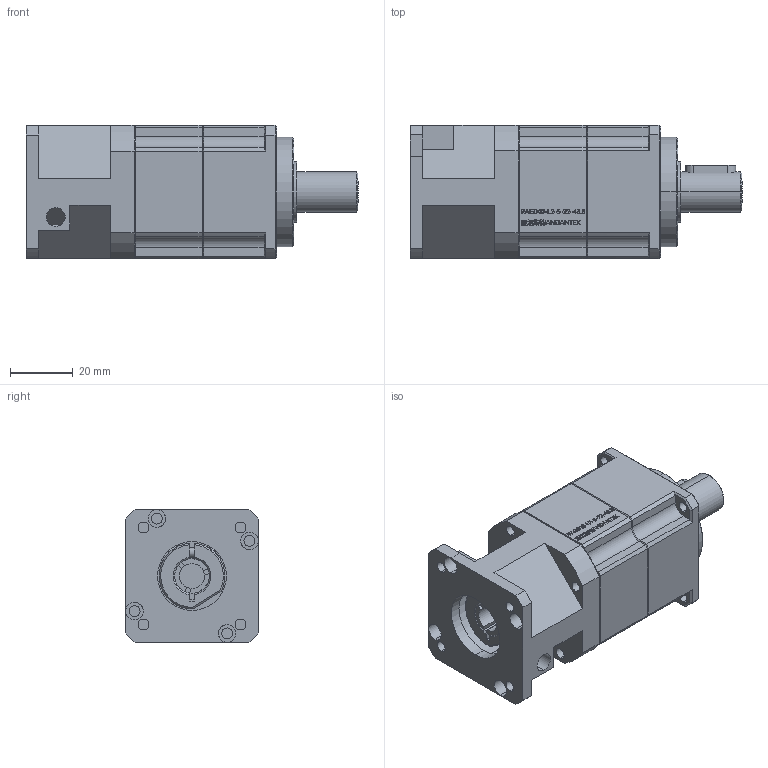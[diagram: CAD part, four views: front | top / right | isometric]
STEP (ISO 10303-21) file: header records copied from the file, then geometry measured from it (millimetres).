
FILE_DESCRIPTION (( 'STEP AP203' ), '1' );
FILE_NAME ('PAG040-L2-5-22-43.8.STEP', '2023-07-10T08:55:14', ( 'Windows User' ), ( 'P R C' ), 'SwSTEP 2.0', 'SolidWorks 2016', '' );
FILE_SCHEMA (( 'CONFIG_CONTROL_DESIGN' ));
Length unit declared in the file: millimetre
Products named in the file (6): GB／T70．1-2000内六角圆柱头螺钉M3×12; 5X5X16; PAG040-L2-5-22-43.8; PAG040-CQ01_PD42-CQ01+CQ02; PAG040-WZZ-8-22-孜3.5-43.8-LR28_1123; PAG040-SJH(锁紧环孔11)-配22止口反锁尾座
Assembly tree (5 placements, depth 2):
  PAG040-L2-5-22-43.8
    PAG040-CQ01_PD42-CQ01+CQ02
    PAG040-WZZ-8-22-孜3.5-43.8-LR28_1123
    PAG040-SJH(锁紧环孔11)-配22止口反锁尾座
    GB／T70．1-2000内六角圆柱头螺钉M3×12
    5X5X16
Bounding box: 106 x 42.6 x 42.6 mm (x, y, z)
Volume: 117565.2 mm3; surface area: 32596.8 mm2
Topology: 5 solids, 6 shells, 897 faces, 2363 edges, 1551 vertices
Faces by surface type: plane 556, bspline 168, cylinder 127, cone 46
Entity records: 35197 total; most frequent: CARTESIAN_POINT 13377, ORIENTED_EDGE 4706, DIRECTION 3731, EDGE_CURVE 2353, LINE 1637, VECTOR 1637, VERTEX_POINT 1547, AXIS2_PLACEMENT_3D 1047
